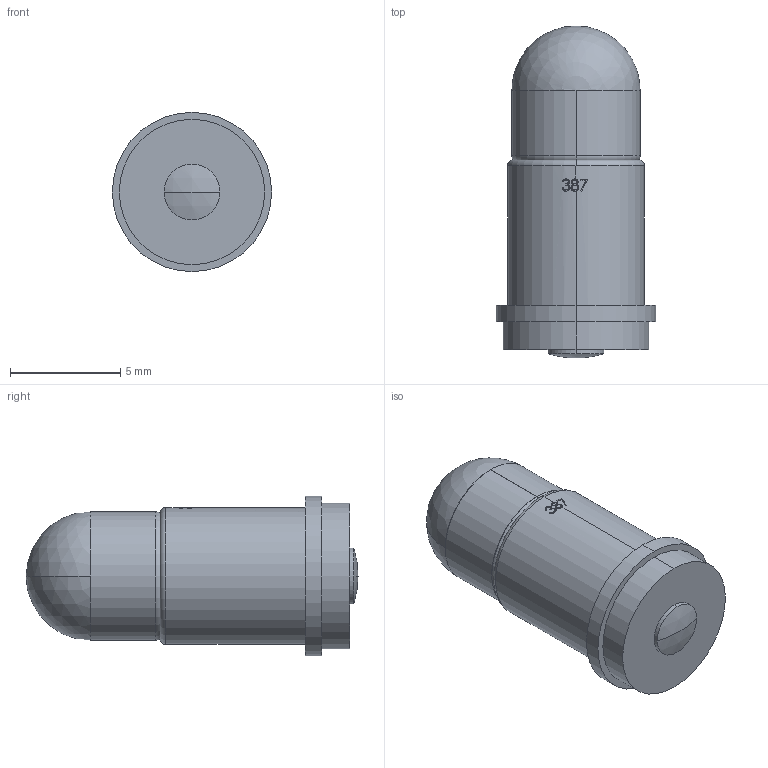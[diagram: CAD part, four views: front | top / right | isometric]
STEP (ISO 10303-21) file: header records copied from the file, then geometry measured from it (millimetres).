
FILE_DESCRIPTION (( 'STEP AP203' ), '1' );
FILE_NAME ('387.STEP', '2017-09-12T17:22:55', ( '' ), ( '' ), 'SwSTEP 2.0', 'SolidWorks 2016', '' );
FILE_SCHEMA (( 'CONFIG_CONTROL_DESIGN' ));
Products named in the file (1): 387
Bounding box: 7.24 x 15.09 x 7.24 mm (x, y, z)
Volume: 228.6 mm3; surface area: 550.6 mm2
Topology: 1 solids, 3 shells, 193 faces, 581 edges, 367 vertices
Faces by surface type: bspline 116, cylinder 35, plane 30, torus 6, sphere 6
Entity records: 157854 total; most frequent: CARTESIAN_POINT 153489, ORIENTED_EDGE 1140, EDGE_CURVE 570, DIRECTION 557, VERTEX_POINT 368, B_SPLINE_CURVE_WITH_KNOTS 333, AXIS2_PLACEMENT_3D 248, EDGE_LOOP 214
